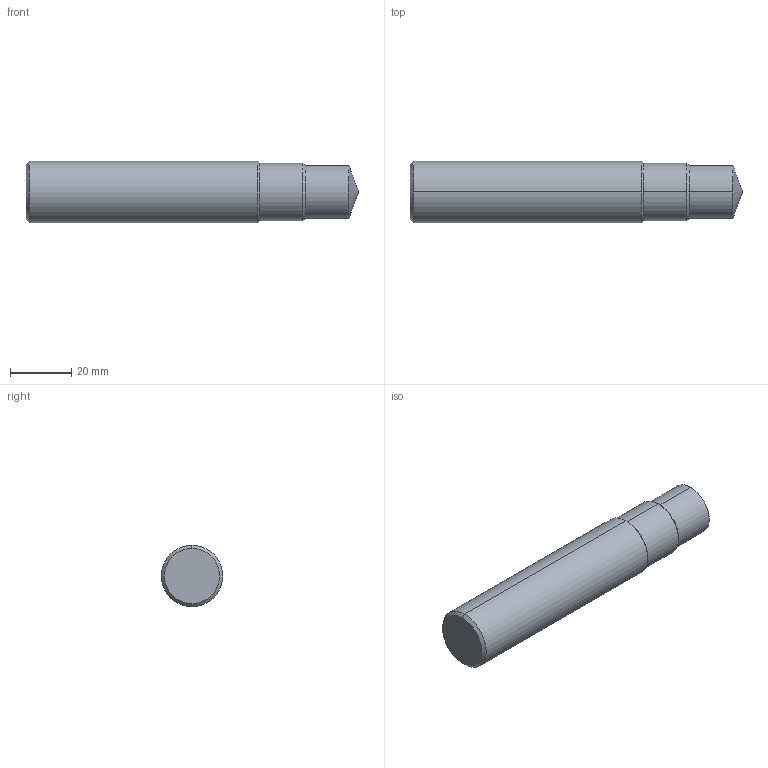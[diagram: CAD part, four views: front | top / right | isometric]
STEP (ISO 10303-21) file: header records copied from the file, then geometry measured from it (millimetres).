
FILE_DESCRIPTION (( 'STEP AP203' ), '1' );
FILE_NAME ('407034-RD-SAE-08A.STEP', '2024-10-02T18:24:28', ( '' ), ( '' ), 'SwSTEP 2.0', 'SolidWorks 2024', '' );
FILE_SCHEMA (( 'CONFIG_CONTROL_DESIGN' ));
Length unit declared in the file: inch
Products named in the file (1): 407034-RD-SAE-08A
Bounding box: 108 x 20 x 20 mm (x, y, z)
Volume: 31409.5 mm3; surface area: 6964 mm2
Topology: 1 solids, 1 shells, 16 faces, 30 edges, 16 vertices
Faces by surface type: cone 8, cylinder 6, plane 2
Entity records: 473 total; most frequent: DIRECTION 80, CARTESIAN_POINT 63, ORIENTED_EDGE 60, AXIS2_PLACEMENT_3D 33, EDGE_CURVE 30, VERTEX_POINT 16, FACE_OUTER_BOUND 16, EDGE_LOOP 16
